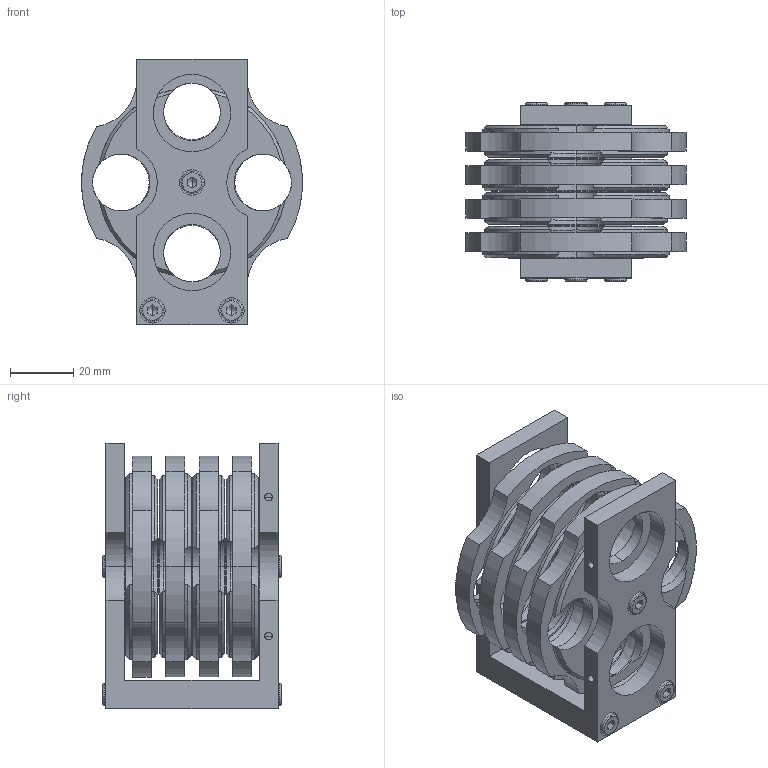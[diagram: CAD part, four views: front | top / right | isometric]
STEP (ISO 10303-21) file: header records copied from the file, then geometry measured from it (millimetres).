
FILE_DESCRIPTION (( 'STEP AP203' ), '1' );
FILE_NAME ('10WA168-20.STEP', '2011-11-23T07:53:02', ( 'Darius' ), ( '' ), 'SwSTEP 2.0', 'SolidWorks 2003240', '' );
FILE_SCHEMA (( 'CONFIG_CONTROL_DESIGN' ));
Length unit declared in the file: millimetre
Products named in the file (1): 10WA168-20
Bounding box: 70 x 56.5 x 84 mm (x, y, z)
Volume: 120011.5 mm3; surface area: 53833.5 mm2
Topology: 1 solids, 4 shells, 511 faces, 1369 edges, 892 vertices
Faces by surface type: cylinder 259, plane 164, cone 76, bspline 12
Entity records: 16656 total; most frequent: CARTESIAN_POINT 4069, ORIENTED_EDGE 2714, DIRECTION 2571, EDGE_CURVE 1357, AXIS2_PLACEMENT_3D 1034, VERTEX_POINT 892, EDGE_LOOP 601, CIRCLE 534
